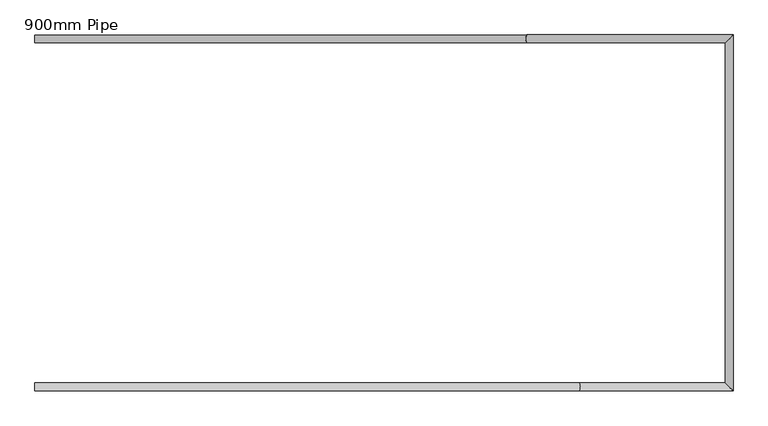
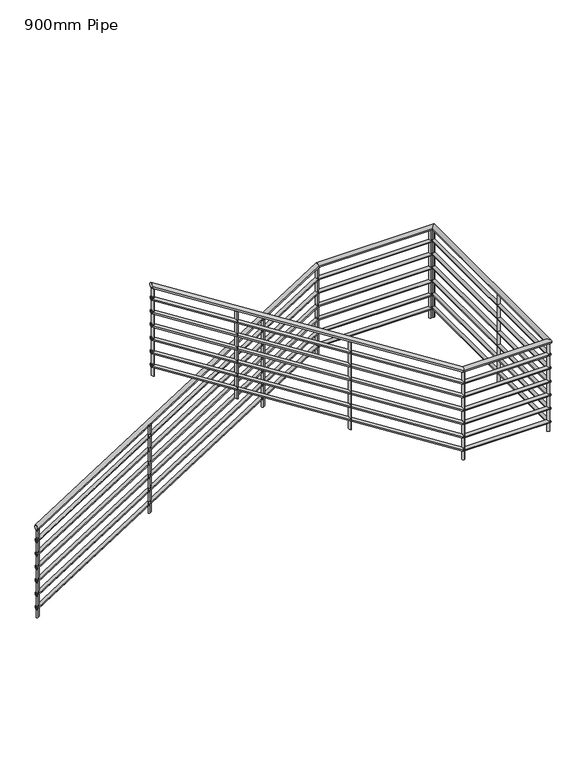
"""IFC4 building model written with IfcOpenShell, lengths in millimetres: railing geometry, 900mm Pipe."""

from ifc_helpers import new_model, si_unit, point, frame, frame_2d, origin, place, context, project, spatial, circle_curve, ellipse_curve, trimmed, segment, composite_curve, outline, extrude, source, transform, mapped, element, save
from ifc_brep_helpers import plane_surface, cylinder_surface, advanced_brep


def railing_900mm_pipe_eab54b94(model_context):
    return source(origin(), model_context, "Body", "SolidModel", [
        advanced_brep(
        [(9044.2181942, 164.5332903, 1051.2938094), (9044.2181942, 204.5332903, 1051.2938094), (11525.0422079, 204.5332903, 2630.0), (11525.0422079, 164.5332903, 2630.0), (12564.2181942, 204.5332903, 2630.0), (12524.2181942, 164.5332903, 2630.0), (12564.2181942, -1592.0090589, 2630.0), (12524.2181942, -1552.0090589, 2630.0), (11788.3941804, -1592.0090589, 2630.0), (11788.3941804, -1552.0090589, 2630.0), (9044.2181942, -1552.0090589, 4376.2938094), (9044.2181942, -1592.0090589, 4376.2938094)],
        [
            (0, 1, ellipse_curve(frame((9044.2181942, 184.5332903, 1051.2938094), z_axis=(-1.0, 0.0, 0.0), x_axis=(0.0, 0.0, -1.0)), 23.7061906, 20.0)),
            (1, 0, ellipse_curve(frame((9044.2181942, 184.5332903, 1051.2938094), z_axis=(-1.0, 0.0, 0.0), x_axis=(0.0, 0.0, -1.0)), 23.7061906, 20.0)),
            (1, 2),
            (2, 3, ellipse_curve(frame((11525.0422079, 184.5332903, 2630.0), z_axis=(-0.9601201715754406, 0.0, -0.27958765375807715), x_axis=(0.2795876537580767, 0.0, -0.9601201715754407)), 20.8307258, 20.0)),
            (3, 0),
            (3, 2, ellipse_curve(frame((11525.0422079, 184.5332903, 2630.0), z_axis=(-0.9601201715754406, 0.0, -0.27958765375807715), x_axis=(0.2795876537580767, 0.0, -0.9601201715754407)), 20.8307258, 20.0)),
            (2, 4),
            (4, 5, ellipse_curve(frame((12544.2181942, 184.5332903, 2630.0), z_axis=(-0.7071067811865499, 0.707106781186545, 0.0), x_axis=(-0.7071067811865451, -0.7071067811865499, 0.0)), 28.2842712, 20.0)),
            (5, 3),
            (5, 4, ellipse_curve(frame((12544.2181942, 184.5332903, 2630.0), z_axis=(-0.7071067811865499, 0.707106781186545, 0.0), x_axis=(-0.7071067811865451, -0.7071067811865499, 0.0)), 28.2842712, 20.0)),
            (4, 6),
            (6, 7, ellipse_curve(frame((12544.2181942, -1572.0090589, 2630.0), z_axis=(0.7071067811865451, 0.7071067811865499, 0.0), x_axis=(-0.70710678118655, 0.7071067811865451, 0.0)), 28.2842712, 20.0)),
            (7, 5),
            (7, 6, ellipse_curve(frame((12544.2181942, -1572.0090589, 2630.0), z_axis=(0.7071067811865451, 0.7071067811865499, 0.0), x_axis=(-0.70710678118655, 0.7071067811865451, 0.0)), 28.2842712, 20.0)),
            (6, 8),
            (8, 9, ellipse_curve(frame((11788.3941804, -1572.0090589, 2630.0), z_axis=(0.9601201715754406, 0.0, -0.2795876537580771), x_axis=(0.2795876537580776, 0.0, 0.9601201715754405)), 20.8307258, 20.0)),
            (9, 7),
            (9, 8, ellipse_curve(frame((11788.3941804, -1572.0090589, 2630.0), z_axis=(0.9601201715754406, 0.0, -0.2795876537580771), x_axis=(0.2795876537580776, 0.0, 0.9601201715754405)), 20.8307258, 20.0)),
            (10, 11, ellipse_curve(frame((9044.2181942, -1572.0090589, 4376.2938094), z_axis=(-1.0, 0.0, 0.0), x_axis=(0.0, 0.0, -1.0)), 23.7061906, 20.0)),
            (11, 10, ellipse_curve(frame((9044.2181942, -1572.0090589, 4376.2938094), z_axis=(-1.0, 0.0, 0.0), x_axis=(0.0, 0.0, -1.0)), 23.7061906, 20.0)),
            (8, 11),
            (10, 9),
        ],
        [
            plane_surface(frame((9044.2181942, 184.5332903, 1075.0), z_axis=(-1.0, 0.0, 0.0), x_axis=(0.0, 1.0, 0.0))),
            cylinder_surface(frame((9054.955704, 184.5332903, 1058.1267702), z_axis=(-0.8436614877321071, 0.0, -0.5368754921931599), x_axis=(0.0, 1.0, 0.0)), 20.0),
            cylinder_surface(frame((11519.2181942, 184.5332903, 2630.0), z_axis=(-1.0, 0.0, 0.0), x_axis=(0.0, 1.0, 0.0)), 20.0),
            cylinder_surface(frame((12544.2181942, 184.5332903, 2630.0), z_axis=(0.0, 1.0, 0.0), x_axis=(1.0, 0.0, 0.0)), 20.0),
            cylinder_surface(frame((12544.2181942, -1572.0090589, 2630.0), z_axis=(1.0, 0.0, 0.0), x_axis=(0.0, -1.0, 0.0)), 20.0),
            plane_surface(frame((9044.2181942, -1572.0090589, 4400.0), z_axis=(-1.0, 0.0, 0.0), x_axis=(0.0, -1.0, 0.0))),
            cylinder_surface(frame((11783.4806843, -1572.0090589, 2633.1267702), z_axis=(0.8436614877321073, 0.0, -0.5368754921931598), x_axis=(0.0, -1.0, 0.0)), 20.0),
        ],
        [
            (0, [[1, 2]]),
            (1, [[-2, 3, 4, 5]]),
            (1, [[-1, -5, 6, -3]]),
            (2, [[-4, 7, 8, 9]]),
            (2, [[-6, -9, 10, -7]]),
            (3, [[-8, 11, 12, 13]]),
            (3, [[-10, -13, 14, -11]]),
            (4, [[-12, 15, 16, 17]]),
            (4, [[-14, -17, 18, -15]]),
            (5, [[19, 20]]),
            (6, [[-16, 21, -19, 22]]),
            (6, [[-18, -22, -20, -21]]),
        ],
    ),
        advanced_brep(
        [(9044.2181942, 169.5332903, 932.2203571), (9044.2181942, 199.5332903, 932.2203571), (11523.5862045, 199.5332903, 2510.0), (11523.5862045, 169.5332903, 2510.0), (12559.2181942, 199.5332903, 2510.0), (12529.2181942, 169.5332903, 2510.0), (12559.2181942, -1587.0090589, 2510.0), (12529.2181942, -1557.0090589, 2510.0), (11789.8501838, -1587.0090589, 2510.0), (11789.8501838, -1557.0090589, 2510.0), (9044.2181942, -1557.0090589, 4257.2203571), (9044.2181942, -1587.0090589, 4257.2203571)],
        [
            (0, 1, ellipse_curve(frame((9044.2181942, 184.5332903, 932.2203571), z_axis=(-1.0, 0.0, 0.0), x_axis=(0.0, 0.0, -1.0)), 17.7796429, 15.0)),
            (1, 0, ellipse_curve(frame((9044.2181942, 184.5332903, 932.2203571), z_axis=(-1.0, 0.0, 0.0), x_axis=(0.0, 0.0, -1.0)), 17.7796429, 15.0)),
            (1, 2),
            (2, 3, ellipse_curve(frame((11523.5862045, 184.5332903, 2510.0), z_axis=(-0.9601201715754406, 0.0, -0.27958765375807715), x_axis=(0.2795876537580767, 0.0, -0.9601201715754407)), 15.6230443, 15.0)),
            (3, 0),
            (3, 2, ellipse_curve(frame((11523.5862045, 184.5332903, 2510.0), z_axis=(-0.9601201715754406, 0.0, -0.27958765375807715), x_axis=(0.2795876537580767, 0.0, -0.9601201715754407)), 15.6230443, 15.0)),
            (2, 4),
            (4, 5, ellipse_curve(frame((12544.2181942, 184.5332903, 2510.0), z_axis=(-0.7071067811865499, 0.707106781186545, 0.0), x_axis=(-0.7071067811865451, -0.7071067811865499, 0.0)), 21.2132034, 15.0)),
            (5, 3),
            (5, 4, ellipse_curve(frame((12544.2181942, 184.5332903, 2510.0), z_axis=(-0.7071067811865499, 0.707106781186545, 0.0), x_axis=(-0.7071067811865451, -0.7071067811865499, 0.0)), 21.2132034, 15.0)),
            (4, 6),
            (6, 7, ellipse_curve(frame((12544.2181942, -1572.0090589, 2510.0), z_axis=(0.7071067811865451, 0.7071067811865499, 0.0), x_axis=(-0.70710678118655, 0.7071067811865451, 0.0)), 21.2132034, 15.0)),
            (7, 5),
            (7, 6, ellipse_curve(frame((12544.2181942, -1572.0090589, 2510.0), z_axis=(0.7071067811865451, 0.7071067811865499, 0.0), x_axis=(-0.70710678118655, 0.7071067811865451, 0.0)), 21.2132034, 15.0)),
            (6, 8),
            (8, 9, ellipse_curve(frame((11789.8501838, -1572.0090589, 2510.0), z_axis=(0.9601201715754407, 0.0, -0.279587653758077), x_axis=(0.2795876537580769, 0.0, 0.9601201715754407)), 15.6230443, 15.0)),
            (9, 7),
            (9, 8, ellipse_curve(frame((11789.8501838, -1572.0090589, 2510.0), z_axis=(0.9601201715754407, 0.0, -0.279587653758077), x_axis=(0.2795876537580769, 0.0, 0.9601201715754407)), 15.6230443, 15.0)),
            (10, 11, ellipse_curve(frame((9044.2181942, -1572.0090589, 4257.2203571), z_axis=(-1.0, 0.0, 0.0), x_axis=(0.0, 0.0, -1.0)), 17.7796429, 15.0)),
            (11, 10, ellipse_curve(frame((9044.2181942, -1572.0090589, 4257.2203571), z_axis=(-1.0, 0.0, 0.0), x_axis=(0.0, 0.0, -1.0)), 17.7796429, 15.0)),
            (8, 11),
            (10, 9),
        ],
        [
            plane_surface(frame((9044.2181942, 184.5332903, 950.0), z_axis=(-1.0, 0.0, 0.0), x_axis=(0.0, 1.0, 0.0))),
            cylinder_surface(frame((9052.2713265, 184.5332903, 937.3450777), z_axis=(-0.8436614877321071, 0.0, -0.5368754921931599), x_axis=(0.0, 1.0, 0.0)), 15.0),
            cylinder_surface(frame((11519.2181942, 184.5332903, 2510.0), z_axis=(-1.0, 0.0, 0.0), x_axis=(0.0, 1.0, 0.0)), 15.0),
            cylinder_surface(frame((12544.2181942, 184.5332903, 2510.0), z_axis=(0.0, 1.0, 0.0), x_axis=(1.0, 0.0, 0.0)), 15.0),
            cylinder_surface(frame((12544.2181942, -1572.0090589, 2510.0), z_axis=(1.0, 0.0, 0.0), x_axis=(0.0, -1.0, 0.0)), 15.0),
            plane_surface(frame((9044.2181942, -1572.0090589, 4275.0), z_axis=(-1.0, 0.0, 0.0), x_axis=(0.0, -1.0, 0.0))),
            cylinder_surface(frame((11786.1650618, -1572.0090589, 2512.3450777), z_axis=(0.8436614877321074, 0.0, -0.5368754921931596), x_axis=(0.0, -1.0, 0.0)), 15.0),
        ],
        [
            (0, [[1, 2]]),
            (1, [[-2, 3, 4, 5]]),
            (1, [[-1, -5, 6, -3]]),
            (2, [[-4, 7, 8, 9]]),
            (2, [[-6, -9, 10, -7]]),
            (3, [[-8, 11, 12, 13]]),
            (3, [[-10, -13, 14, -11]]),
            (4, [[-12, 15, 16, 17]]),
            (4, [[-14, -17, 18, -15]]),
            (5, [[19, 20]]),
            (6, [[-16, 21, -19, 22]]),
            (6, [[-18, -22, -20, -21]]),
        ],
    ),
        advanced_brep(
        [(9044.2181942, 169.5332903, 807.2203571), (9044.2181942, 199.5332903, 807.2203571), (11523.5862045, 199.5332903, 2385.0), (11523.5862045, 169.5332903, 2385.0), (12559.2181942, 199.5332903, 2385.0), (12529.2181942, 169.5332903, 2385.0), (12559.2181942, -1587.0090589, 2385.0), (12529.2181942, -1557.0090589, 2385.0), (11789.8501838, -1587.0090589, 2385.0), (11789.8501838, -1557.0090589, 2385.0), (9044.2181942, -1557.0090589, 4132.2203571), (9044.2181942, -1587.0090589, 4132.2203571)],
        [
            (0, 1, ellipse_curve(frame((9044.2181942, 184.5332903, 807.2203571), z_axis=(-1.0, 0.0, 0.0), x_axis=(0.0, 0.0, -1.0)), 17.7796429, 15.0)),
            (1, 0, ellipse_curve(frame((9044.2181942, 184.5332903, 807.2203571), z_axis=(-1.0, 0.0, 0.0), x_axis=(0.0, 0.0, -1.0)), 17.7796429, 15.0)),
            (1, 2),
            (2, 3, ellipse_curve(frame((11523.5862045, 184.5332903, 2385.0), z_axis=(-0.9601201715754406, 0.0, -0.27958765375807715), x_axis=(0.2795876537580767, 0.0, -0.9601201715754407)), 15.6230443, 15.0)),
            (3, 0),
            (3, 2, ellipse_curve(frame((11523.5862045, 184.5332903, 2385.0), z_axis=(-0.9601201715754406, 0.0, -0.27958765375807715), x_axis=(0.2795876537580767, 0.0, -0.9601201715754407)), 15.6230443, 15.0)),
            (2, 4),
            (4, 5, ellipse_curve(frame((12544.2181942, 184.5332903, 2385.0), z_axis=(-0.7071067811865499, 0.707106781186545, 0.0), x_axis=(-0.7071067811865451, -0.7071067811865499, 0.0)), 21.2132034, 15.0)),
            (5, 3),
            (5, 4, ellipse_curve(frame((12544.2181942, 184.5332903, 2385.0), z_axis=(-0.7071067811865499, 0.707106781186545, 0.0), x_axis=(-0.7071067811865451, -0.7071067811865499, 0.0)), 21.2132034, 15.0)),
            (4, 6),
            (6, 7, ellipse_curve(frame((12544.2181942, -1572.0090589, 2385.0), z_axis=(0.7071067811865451, 0.7071067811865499, 0.0), x_axis=(-0.70710678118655, 0.7071067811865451, 0.0)), 21.2132034, 15.0)),
            (7, 5),
            (7, 6, ellipse_curve(frame((12544.2181942, -1572.0090589, 2385.0), z_axis=(0.7071067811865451, 0.7071067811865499, 0.0), x_axis=(-0.70710678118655, 0.7071067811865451, 0.0)), 21.2132034, 15.0)),
            (6, 8),
            (8, 9, ellipse_curve(frame((11789.8501838, -1572.0090589, 2385.0), z_axis=(0.9601201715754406, 0.0, -0.27958765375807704), x_axis=(0.2795876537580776, 0.0, 0.9601201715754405)), 15.6230443, 15.0)),
            (9, 7),
            (9, 8, ellipse_curve(frame((11789.8501838, -1572.0090589, 2385.0), z_axis=(0.9601201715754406, 0.0, -0.27958765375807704), x_axis=(0.2795876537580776, 0.0, 0.9601201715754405)), 15.6230443, 15.0)),
            (10, 11, ellipse_curve(frame((9044.2181942, -1572.0090589, 4132.2203571), z_axis=(-1.0, 0.0, 0.0), x_axis=(0.0, 0.0, -1.0)), 17.7796429, 15.0)),
            (11, 10, ellipse_curve(frame((9044.2181942, -1572.0090589, 4132.2203571), z_axis=(-1.0, 0.0, 0.0), x_axis=(0.0, 0.0, -1.0)), 17.7796429, 15.0)),
            (8, 11),
            (10, 9),
        ],
        [
            plane_surface(frame((9044.2181942, 184.5332903, 825.0), z_axis=(-1.0, 0.0, 0.0), x_axis=(0.0, 1.0, 0.0))),
            cylinder_surface(frame((9052.2713265, 184.5332903, 812.3450777), z_axis=(-0.8436614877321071, 0.0, -0.5368754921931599), x_axis=(0.0, 1.0, 0.0)), 15.0),
            cylinder_surface(frame((11519.2181942, 184.5332903, 2385.0), z_axis=(-1.0, 0.0, 0.0), x_axis=(0.0, 1.0, 0.0)), 15.0),
            cylinder_surface(frame((12544.2181942, 184.5332903, 2385.0), z_axis=(0.0, 1.0, 0.0), x_axis=(1.0, 0.0, 0.0)), 15.0),
            cylinder_surface(frame((12544.2181942, -1572.0090589, 2385.0), z_axis=(1.0, 0.0, 0.0), x_axis=(0.0, -1.0, 0.0)), 15.0),
            plane_surface(frame((9044.2181942, -1572.0090589, 4150.0), z_axis=(-1.0, 0.0, 0.0), x_axis=(0.0, -1.0, 0.0))),
            cylinder_surface(frame((11786.1650618, -1572.0090589, 2387.3450777), z_axis=(0.8436614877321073, 0.0, -0.5368754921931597), x_axis=(0.0, -1.0, 0.0)), 15.0),
        ],
        [
            (0, [[1, 2]]),
            (1, [[-2, 3, 4, 5]]),
            (1, [[-1, -5, 6, -3]]),
            (2, [[-4, 7, 8, 9]]),
            (2, [[-6, -9, 10, -7]]),
            (3, [[-8, 11, 12, 13]]),
            (3, [[-10, -13, 14, -11]]),
            (4, [[-12, 15, 16, 17]]),
            (4, [[-14, -17, 18, -15]]),
            (5, [[19, 20]]),
            (6, [[-16, 21, -19, 22]]),
            (6, [[-18, -22, -20, -21]]),
        ],
    ),
        advanced_brep(
        [(9044.2181942, 169.5332903, 682.2203571), (9044.2181942, 199.5332903, 682.2203571), (11523.5862045, 199.5332903, 2260.0), (11523.5862045, 169.5332903, 2260.0), (12559.2181942, 199.5332903, 2260.0), (12529.2181942, 169.5332903, 2260.0), (12559.2181942, -1587.0090589, 2260.0), (12529.2181942, -1557.0090589, 2260.0), (11789.8501838, -1587.0090589, 2260.0), (11789.8501838, -1557.0090589, 2260.0), (9044.2181942, -1557.0090589, 4007.2203571), (9044.2181942, -1587.0090589, 4007.2203571)],
        [
            (0, 1, ellipse_curve(frame((9044.2181942, 184.5332903, 682.2203571), z_axis=(-1.0, 0.0, 0.0), x_axis=(0.0, 0.0, -1.0)), 17.7796429, 15.0)),
            (1, 0, ellipse_curve(frame((9044.2181942, 184.5332903, 682.2203571), z_axis=(-1.0, 0.0, 0.0), x_axis=(0.0, 0.0, -1.0)), 17.7796429, 15.0)),
            (1, 2),
            (2, 3, ellipse_curve(frame((11523.5862045, 184.5332903, 2260.0), z_axis=(-0.9601201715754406, 0.0, -0.27958765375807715), x_axis=(0.2795876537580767, 0.0, -0.9601201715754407)), 15.6230443, 15.0)),
            (3, 0),
            (3, 2, ellipse_curve(frame((11523.5862045, 184.5332903, 2260.0), z_axis=(-0.9601201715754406, 0.0, -0.27958765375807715), x_axis=(0.2795876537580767, 0.0, -0.9601201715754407)), 15.6230443, 15.0)),
            (2, 4),
            (4, 5, ellipse_curve(frame((12544.2181942, 184.5332903, 2260.0), z_axis=(-0.7071067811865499, 0.707106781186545, 0.0), x_axis=(-0.7071067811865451, -0.7071067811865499, 0.0)), 21.2132034, 15.0)),
            (5, 3),
            (5, 4, ellipse_curve(frame((12544.2181942, 184.5332903, 2260.0), z_axis=(-0.7071067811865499, 0.707106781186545, 0.0), x_axis=(-0.7071067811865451, -0.7071067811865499, 0.0)), 21.2132034, 15.0)),
            (4, 6),
            (6, 7, ellipse_curve(frame((12544.2181942, -1572.0090589, 2260.0), z_axis=(0.7071067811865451, 0.7071067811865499, 0.0), x_axis=(-0.70710678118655, 0.7071067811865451, 0.0)), 21.2132034, 15.0)),
            (7, 5),
            (7, 6, ellipse_curve(frame((12544.2181942, -1572.0090589, 2260.0), z_axis=(0.7071067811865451, 0.7071067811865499, 0.0), x_axis=(-0.70710678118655, 0.7071067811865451, 0.0)), 21.2132034, 15.0)),
            (6, 8),
            (8, 9, ellipse_curve(frame((11789.8501838, -1572.0090589, 2260.0), z_axis=(0.9601201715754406, 0.0, -0.2795876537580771), x_axis=(0.2795876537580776, 0.0, 0.9601201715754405)), 15.6230443, 15.0)),
            (9, 7),
            (9, 8, ellipse_curve(frame((11789.8501838, -1572.0090589, 2260.0), z_axis=(0.9601201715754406, 0.0, -0.2795876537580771), x_axis=(0.2795876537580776, 0.0, 0.9601201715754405)), 15.6230443, 15.0)),
            (10, 11, ellipse_curve(frame((9044.2181942, -1572.0090589, 4007.2203571), z_axis=(-1.0, 0.0, 0.0), x_axis=(0.0, 0.0, -1.0)), 17.7796429, 15.0)),
            (11, 10, ellipse_curve(frame((9044.2181942, -1572.0090589, 4007.2203571), z_axis=(-1.0, 0.0, 0.0), x_axis=(0.0, 0.0, -1.0)), 17.7796429, 15.0)),
            (8, 11),
            (10, 9),
        ],
        [
            plane_surface(frame((9044.2181942, 184.5332903, 700.0), z_axis=(-1.0, 0.0, 0.0), x_axis=(0.0, 1.0, 0.0))),
            cylinder_surface(frame((9052.2713265, 184.5332903, 687.3450777), z_axis=(-0.8436614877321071, 0.0, -0.5368754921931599), x_axis=(0.0, 1.0, 0.0)), 15.0),
            cylinder_surface(frame((11519.2181942, 184.5332903, 2260.0), z_axis=(-1.0, 0.0, 0.0), x_axis=(0.0, 1.0, 0.0)), 15.0),
            cylinder_surface(frame((12544.2181942, 184.5332903, 2260.0), z_axis=(0.0, 1.0, 0.0), x_axis=(1.0, 0.0, 0.0)), 15.0),
            cylinder_surface(frame((12544.2181942, -1572.0090589, 2260.0), z_axis=(1.0, 0.0, 0.0), x_axis=(0.0, -1.0, 0.0)), 15.0),
            plane_surface(frame((9044.2181942, -1572.0090589, 4025.0), z_axis=(-1.0, 0.0, 0.0), x_axis=(0.0, -1.0, 0.0))),
            cylinder_surface(frame((11786.1650618, -1572.0090589, 2262.3450777), z_axis=(0.8436614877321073, 0.0, -0.5368754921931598), x_axis=(0.0, -1.0, 0.0)), 15.0),
        ],
        [
            (0, [[1, 2]]),
            (1, [[-2, 3, 4, 5]]),
            (1, [[-1, -5, 6, -3]]),
            (2, [[-4, 7, 8, 9]]),
            (2, [[-6, -9, 10, -7]]),
            (3, [[-8, 11, 12, 13]]),
            (3, [[-10, -13, 14, -11]]),
            (4, [[-12, 15, 16, 17]]),
            (4, [[-14, -17, 18, -15]]),
            (5, [[19, 20]]),
            (6, [[-16, 21, -19, 22]]),
            (6, [[-18, -22, -20, -21]]),
        ],
    ),
        advanced_brep(
        [(9044.2181942, 169.5332903, 557.2203571), (9044.2181942, 199.5332903, 557.2203571), (11523.5862045, 199.5332903, 2135.0), (11523.5862045, 169.5332903, 2135.0), (12559.2181942, 199.5332903, 2135.0), (12529.2181942, 169.5332903, 2135.0), (12559.2181942, -1587.0090589, 2135.0), (12529.2181942, -1557.0090589, 2135.0), (11789.8501838, -1587.0090589, 2135.0), (11789.8501838, -1557.0090589, 2135.0), (9044.2181942, -1557.0090589, 3882.2203571), (9044.2181942, -1587.0090589, 3882.2203571)],
        [
            (0, 1, ellipse_curve(frame((9044.2181942, 184.5332903, 557.2203571), z_axis=(-1.0, 0.0, 0.0), x_axis=(0.0, 0.0, -1.0)), 17.7796429, 15.0)),
            (1, 0, ellipse_curve(frame((9044.2181942, 184.5332903, 557.2203571), z_axis=(-1.0, 0.0, 0.0), x_axis=(0.0, 0.0, -1.0)), 17.7796429, 15.0)),
            (1, 2),
            (2, 3, ellipse_curve(frame((11523.5862045, 184.5332903, 2135.0), z_axis=(-0.9601201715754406, 0.0, -0.27958765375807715), x_axis=(0.2795876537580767, 0.0, -0.9601201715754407)), 15.6230443, 15.0)),
            (3, 0),
            (3, 2, ellipse_curve(frame((11523.5862045, 184.5332903, 2135.0), z_axis=(-0.9601201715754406, 0.0, -0.27958765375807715), x_axis=(0.2795876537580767, 0.0, -0.9601201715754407)), 15.6230443, 15.0)),
            (2, 4),
            (4, 5, ellipse_curve(frame((12544.2181942, 184.5332903, 2135.0), z_axis=(-0.7071067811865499, 0.707106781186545, 0.0), x_axis=(-0.7071067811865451, -0.7071067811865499, 0.0)), 21.2132034, 15.0)),
            (5, 3),
            (5, 4, ellipse_curve(frame((12544.2181942, 184.5332903, 2135.0), z_axis=(-0.7071067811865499, 0.707106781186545, 0.0), x_axis=(-0.7071067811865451, -0.7071067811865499, 0.0)), 21.2132034, 15.0)),
            (4, 6),
            (6, 7, ellipse_curve(frame((12544.2181942, -1572.0090589, 2135.0), z_axis=(0.7071067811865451, 0.7071067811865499, 0.0), x_axis=(-0.70710678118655, 0.7071067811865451, 0.0)), 21.2132034, 15.0)),
            (7, 5),
            (7, 6, ellipse_curve(frame((12544.2181942, -1572.0090589, 2135.0), z_axis=(0.7071067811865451, 0.7071067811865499, 0.0), x_axis=(-0.70710678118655, 0.7071067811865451, 0.0)), 21.2132034, 15.0)),
            (6, 8),
            (8, 9, ellipse_curve(frame((11789.8501838, -1572.0090589, 2135.0), z_axis=(0.9601201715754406, 0.0, -0.27958765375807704), x_axis=(0.2795876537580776, 0.0, 0.9601201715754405)), 15.6230443, 15.0)),
            (9, 7),
            (9, 8, ellipse_curve(frame((11789.8501838, -1572.0090589, 2135.0), z_axis=(0.9601201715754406, 0.0, -0.27958765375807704), x_axis=(0.2795876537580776, 0.0, 0.9601201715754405)), 15.6230443, 15.0)),
            (10, 11, ellipse_curve(frame((9044.2181942, -1572.0090589, 3882.2203571), z_axis=(-1.0, 0.0, 0.0), x_axis=(0.0, 0.0, -1.0)), 17.7796429, 15.0)),
            (11, 10, ellipse_curve(frame((9044.2181942, -1572.0090589, 3882.2203571), z_axis=(-1.0, 0.0, 0.0), x_axis=(0.0, 0.0, -1.0)), 17.7796429, 15.0)),
            (8, 11),
            (10, 9),
        ],
        [
            plane_surface(frame((9044.2181942, 184.5332903, 575.0), z_axis=(-1.0, 0.0, 0.0), x_axis=(0.0, 1.0, 0.0))),
            cylinder_surface(frame((9052.2713265, 184.5332903, 562.3450777), z_axis=(-0.8436614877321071, 0.0, -0.5368754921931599), x_axis=(0.0, 1.0, 0.0)), 15.0),
            cylinder_surface(frame((11519.2181942, 184.5332903, 2135.0), z_axis=(-1.0, 0.0, 0.0), x_axis=(0.0, 1.0, 0.0)), 15.0),
            cylinder_surface(frame((12544.2181942, 184.5332903, 2135.0), z_axis=(0.0, 1.0, 0.0), x_axis=(1.0, 0.0, 0.0)), 15.0),
            cylinder_surface(frame((12544.2181942, -1572.0090589, 2135.0), z_axis=(1.0, 0.0, 0.0), x_axis=(0.0, -1.0, 0.0)), 15.0),
            plane_surface(frame((9044.2181942, -1572.0090589, 3900.0), z_axis=(-1.0, 0.0, 0.0), x_axis=(0.0, -1.0, 0.0))),
            cylinder_surface(frame((11786.1650618, -1572.0090589, 2137.3450777), z_axis=(0.8436614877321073, 0.0, -0.5368754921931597), x_axis=(0.0, -1.0, 0.0)), 15.0),
        ],
        [
            (0, [[1, 2]]),
            (1, [[-2, 3, 4, 5]]),
            (1, [[-1, -5, 6, -3]]),
            (2, [[-4, 7, 8, 9]]),
            (2, [[-6, -9, 10, -7]]),
            (3, [[-8, 11, 12, 13]]),
            (3, [[-10, -13, 14, -11]]),
            (4, [[-12, 15, 16, 17]]),
            (4, [[-14, -17, 18, -15]]),
            (5, [[19, 20]]),
            (6, [[-16, 21, -19, 22]]),
            (6, [[-18, -22, -20, -21]]),
        ],
    ),
        advanced_brep(
        [(9044.2181942, 169.5332903, 432.2203571), (9044.2181942, 199.5332903, 432.2203571), (11523.5862045, 199.5332903, 2010.0), (11523.5862045, 169.5332903, 2010.0), (12559.2181942, 199.5332903, 2010.0), (12529.2181942, 169.5332903, 2010.0), (12559.2181942, -1587.0090589, 2010.0), (12529.2181942, -1557.0090589, 2010.0), (11789.8501838, -1587.0090589, 2010.0), (11789.8501838, -1557.0090589, 2010.0), (9044.2181942, -1557.0090589, 3757.2203571), (9044.2181942, -1587.0090589, 3757.2203571)],
        [
            (0, 1, ellipse_curve(frame((9044.2181942, 184.5332903, 432.2203571), z_axis=(-1.0, 0.0, 0.0), x_axis=(0.0, 0.0, -1.0)), 17.7796429, 15.0)),
            (1, 0, ellipse_curve(frame((9044.2181942, 184.5332903, 432.2203571), z_axis=(-1.0, 0.0, 0.0), x_axis=(0.0, 0.0, -1.0)), 17.7796429, 15.0)),
            (1, 2),
            (2, 3, ellipse_curve(frame((11523.5862045, 184.5332903, 2010.0), z_axis=(-0.9601201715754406, 0.0, -0.27958765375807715), x_axis=(0.2795876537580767, 0.0, -0.9601201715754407)), 15.6230443, 15.0)),
            (3, 0),
            (3, 2, ellipse_curve(frame((11523.5862045, 184.5332903, 2010.0), z_axis=(-0.9601201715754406, 0.0, -0.27958765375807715), x_axis=(0.2795876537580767, 0.0, -0.9601201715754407)), 15.6230443, 15.0)),
            (2, 4),
            (4, 5, ellipse_curve(frame((12544.2181942, 184.5332903, 2010.0), z_axis=(-0.7071067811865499, 0.707106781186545, 0.0), x_axis=(-0.7071067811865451, -0.7071067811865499, 0.0)), 21.2132034, 15.0)),
            (5, 3),
            (5, 4, ellipse_curve(frame((12544.2181942, 184.5332903, 2010.0), z_axis=(-0.7071067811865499, 0.707106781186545, 0.0), x_axis=(-0.7071067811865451, -0.7071067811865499, 0.0)), 21.2132034, 15.0)),
            (4, 6),
            (6, 7, ellipse_curve(frame((12544.2181942, -1572.0090589, 2010.0), z_axis=(0.7071067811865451, 0.7071067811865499, 0.0), x_axis=(-0.70710678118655, 0.7071067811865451, 0.0)), 21.2132034, 15.0)),
            (7, 5),
            (7, 6, ellipse_curve(frame((12544.2181942, -1572.0090589, 2010.0), z_axis=(0.7071067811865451, 0.7071067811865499, 0.0), x_axis=(-0.70710678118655, 0.7071067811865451, 0.0)), 21.2132034, 15.0)),
            (6, 8),
            (8, 9, ellipse_curve(frame((11789.8501838, -1572.0090589, 2010.0), z_axis=(0.9601201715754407, 0.0, -0.279587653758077), x_axis=(0.2795876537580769, 0.0, 0.9601201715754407)), 15.6230443, 15.0)),
            (9, 7),
            (9, 8, ellipse_curve(frame((11789.8501838, -1572.0090589, 2010.0), z_axis=(0.9601201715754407, 0.0, -0.279587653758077), x_axis=(0.2795876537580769, 0.0, 0.9601201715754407)), 15.6230443, 15.0)),
            (10, 11, ellipse_curve(frame((9044.2181942, -1572.0090589, 3757.2203571), z_axis=(-1.0, 0.0, 0.0), x_axis=(0.0, 0.0, -1.0)), 17.7796429, 15.0)),
            (11, 10, ellipse_curve(frame((9044.2181942, -1572.0090589, 3757.2203571), z_axis=(-1.0, 0.0, 0.0), x_axis=(0.0, 0.0, -1.0)), 17.7796429, 15.0)),
            (8, 11),
            (10, 9),
        ],
        [
            plane_surface(frame((9044.2181942, 184.5332903, 450.0), z_axis=(-1.0, 0.0, 0.0), x_axis=(0.0, 1.0, 0.0))),
            cylinder_surface(frame((9052.2713265, 184.5332903, 437.3450777), z_axis=(-0.8436614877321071, 0.0, -0.5368754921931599), x_axis=(0.0, 1.0, 0.0)), 15.0),
            cylinder_surface(frame((11519.2181942, 184.5332903, 2010.0), z_axis=(-1.0, 0.0, 0.0), x_axis=(0.0, 1.0, 0.0)), 15.0),
            cylinder_surface(frame((12544.2181942, 184.5332903, 2010.0), z_axis=(0.0, 1.0, 0.0), x_axis=(1.0, 0.0, 0.0)), 15.0),
            cylinder_surface(frame((12544.2181942, -1572.0090589, 2010.0), z_axis=(1.0, 0.0, 0.0), x_axis=(0.0, -1.0, 0.0)), 15.0),
            plane_surface(frame((9044.2181942, -1572.0090589, 3775.0), z_axis=(-1.0, 0.0, 0.0), x_axis=(0.0, -1.0, 0.0))),
            cylinder_surface(frame((11786.1650618, -1572.0090589, 2012.3450777), z_axis=(0.8436614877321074, 0.0, -0.5368754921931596), x_axis=(0.0, -1.0, 0.0)), 15.0),
        ],
        [
            (0, [[1, 2]]),
            (1, [[-2, 3, 4, 5]]),
            (1, [[-1, -5, 6, -3]]),
            (2, [[-4, 7, 8, 9]]),
            (2, [[-6, -9, 10, -7]]),
            (3, [[-8, 11, 12, 13]]),
            (3, [[-10, -13, 14, -11]]),
            (4, [[-12, 15, 16, 17]]),
            (4, [[-14, -17, 18, -15]]),
            (5, [[19, 20]]),
            (6, [[-16, 21, -19, 22]]),
            (6, [[-18, -22, -20, -21]]),
        ],
    ),
        advanced_brep(
        [(9044.2181942, 169.5332903, 307.2203571), (9044.2181942, 199.5332903, 307.2203571), (11523.5862045, 199.5332903, 1885.0), (11523.5862045, 169.5332903, 1885.0), (12559.2181942, 199.5332903, 1885.0), (12529.2181942, 169.5332903, 1885.0), (12559.2181942, -1587.0090589, 1885.0), (12529.2181942, -1557.0090589, 1885.0), (11789.8501838, -1587.0090589, 1885.0), (11789.8501838, -1557.0090589, 1885.0), (9044.2181942, -1557.0090589, 3632.2203571), (9044.2181942, -1587.0090589, 3632.2203571)],
        [
            (0, 1, ellipse_curve(frame((9044.2181942, 184.5332903, 307.2203571), z_axis=(-1.0, 0.0, 0.0), x_axis=(0.0, 0.0, -1.0)), 17.7796429, 15.0)),
            (1, 0, ellipse_curve(frame((9044.2181942, 184.5332903, 307.2203571), z_axis=(-1.0, 0.0, 0.0), x_axis=(0.0, 0.0, -1.0)), 17.7796429, 15.0)),
            (1, 2),
            (2, 3, ellipse_curve(frame((11523.5862045, 184.5332903, 1885.0), z_axis=(-0.9601201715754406, 0.0, -0.27958765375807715), x_axis=(0.2795876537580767, 0.0, -0.9601201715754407)), 15.6230443, 15.0)),
            (3, 0),
            (3, 2, ellipse_curve(frame((11523.5862045, 184.5332903, 1885.0), z_axis=(-0.9601201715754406, 0.0, -0.27958765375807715), x_axis=(0.2795876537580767, 0.0, -0.9601201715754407)), 15.6230443, 15.0)),
            (2, 4),
            (4, 5, ellipse_curve(frame((12544.2181942, 184.5332903, 1885.0), z_axis=(-0.7071067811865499, 0.707106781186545, 0.0), x_axis=(-0.7071067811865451, -0.7071067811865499, 0.0)), 21.2132034, 15.0)),
            (5, 3),
            (5, 4, ellipse_curve(frame((12544.2181942, 184.5332903, 1885.0), z_axis=(-0.7071067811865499, 0.707106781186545, 0.0), x_axis=(-0.7071067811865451, -0.7071067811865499, 0.0)), 21.2132034, 15.0)),
            (4, 6),
            (6, 7, ellipse_curve(frame((12544.2181942, -1572.0090589, 1885.0), z_axis=(0.7071067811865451, 0.7071067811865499, 0.0), x_axis=(-0.70710678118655, 0.7071067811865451, 0.0)), 21.2132034, 15.0)),
            (7, 5),
            (7, 6, ellipse_curve(frame((12544.2181942, -1572.0090589, 1885.0), z_axis=(0.7071067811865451, 0.7071067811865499, 0.0), x_axis=(-0.70710678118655, 0.7071067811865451, 0.0)), 21.2132034, 15.0)),
            (6, 8),
            (8, 9, ellipse_curve(frame((11789.8501838, -1572.0090589, 1885.0), z_axis=(0.9601201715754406, 0.0, -0.27958765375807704), x_axis=(0.2795876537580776, 0.0, 0.9601201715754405)), 15.6230443, 15.0)),
            (9, 7),
            (9, 8, ellipse_curve(frame((11789.8501838, -1572.0090589, 1885.0), z_axis=(0.9601201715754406, 0.0, -0.27958765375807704), x_axis=(0.2795876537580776, 0.0, 0.9601201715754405)), 15.6230443, 15.0)),
            (10, 11, ellipse_curve(frame((9044.2181942, -1572.0090589, 3632.2203571), z_axis=(-1.0, 0.0, 0.0), x_axis=(0.0, 0.0, -1.0)), 17.7796429, 15.0)),
            (11, 10, ellipse_curve(frame((9044.2181942, -1572.0090589, 3632.2203571), z_axis=(-1.0, 0.0, 0.0), x_axis=(0.0, 0.0, -1.0)), 17.7796429, 15.0)),
            (8, 11),
            (10, 9),
        ],
        [
            plane_surface(frame((9044.2181942, 184.5332903, 325.0), z_axis=(-1.0, 0.0, 0.0), x_axis=(0.0, 1.0, 0.0))),
            cylinder_surface(frame((9052.2713265, 184.5332903, 312.3450777), z_axis=(-0.8436614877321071, 0.0, -0.5368754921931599), x_axis=(0.0, 1.0, 0.0)), 15.0),
            cylinder_surface(frame((11519.2181942, 184.5332903, 1885.0), z_axis=(-1.0, 0.0, 0.0), x_axis=(0.0, 1.0, 0.0)), 15.0),
            cylinder_surface(frame((12544.2181942, 184.5332903, 1885.0), z_axis=(0.0, 1.0, 0.0), x_axis=(1.0, 0.0, 0.0)), 15.0),
            cylinder_surface(frame((12544.2181942, -1572.0090589, 1885.0), z_axis=(1.0, 0.0, 0.0), x_axis=(0.0, -1.0, 0.0)), 15.0),
            plane_surface(frame((9044.2181942, -1572.0090589, 3650.0), z_axis=(-1.0, 0.0, 0.0), x_axis=(0.0, -1.0, 0.0))),
            cylinder_surface(frame((11786.1650618, -1572.0090589, 1887.3450777), z_axis=(0.8436614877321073, 0.0, -0.5368754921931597), x_axis=(0.0, -1.0, 0.0)), 15.0),
        ],
        [
            (0, [[1, 2]]),
            (1, [[-2, 3, 4, 5]]),
            (1, [[-1, -5, 6, -3]]),
            (2, [[-4, 7, 8, 9]]),
            (2, [[-6, -9, 10, -7]]),
            (3, [[-8, 11, 12, 13]]),
            (3, [[-10, -13, 14, -11]]),
            (4, [[-12, 15, 16, 17]]),
            (4, [[-14, -17, 18, -15]]),
            (5, [[19, 20]]),
            (6, [[-16, 21, -19, 22]]),
            (6, [[-18, -22, -20, -21]]),
        ],
    ),
        advanced_brep(
        [(9794.2181942, -1584.5090589, 3875.3148916), (9794.2181942, -1559.5090589, 3875.3148916), (9794.2181942, -1559.5090589, 3063.1941859), (9794.2181942, -1584.5090589, 3063.1941859)],
        [
            (0, 1, ellipse_curve(frame((9794.2181942, -1572.0090589, 3875.3148916), z_axis=(-0.5368754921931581, 0.0, -0.8436614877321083), x_axis=(-0.8436614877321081, 0.0, 0.5368754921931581)), 14.8163691, 12.5)),
            (1, 2),
            (2, 3, ellipse_curve(frame((9794.2181942, -1572.0090589, 3063.1941859), z_axis=(0.5368754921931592, 0.0, 0.8436614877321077), x_axis=(-0.8436614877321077, 0.0, 0.5368754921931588)), 14.8163691, 12.5)),
            (3, 0),
            (3, 2, ellipse_curve(frame((9794.2181942, -1572.0090589, 3063.1941859), z_axis=(0.5368754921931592, 0.0, 0.8436614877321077), x_axis=(-0.8436614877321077, 0.0, 0.5368754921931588)), 14.8163691, 12.5)),
            (1, 0, ellipse_curve(frame((9794.2181942, -1572.0090589, 3875.3148916), z_axis=(-0.5368754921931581, 0.0, -0.8436614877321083), x_axis=(-0.8436614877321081, 0.0, 0.5368754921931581)), 14.8163691, 12.5)),
        ],
        [
            cylinder_surface(frame((9794.2181942, -1572.0090589, 2963.1941859), z_axis=(0.0, 0.0, 1.0), x_axis=(0.0, 1.0, 0.0)), 12.5),
            plane_surface(frame((9769.2181942, -1547.0090589, 3891.2239825), z_axis=(0.5368754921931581, 0.0, 0.8436614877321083), x_axis=(0.0, -1.0, 0.0))),
            plane_surface(frame((9819.2181942, -1547.0090589, 3047.285095), z_axis=(-0.5368754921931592, 0.0, -0.8436614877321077), x_axis=(0.0, -1.0, 0.0))),
        ],
        [
            (0, [[1, 2, 3, 4]]),
            (0, [[5, -2, 6, -4]]),
            (1, [[-6, -1]]),
            (2, [[-5, -3]]),
        ],
    ),
        advanced_brep(
        [(10794.2181942, -1584.5090589, 3238.9512552), (10794.2181942, -1559.5090589, 3238.9512552), (10794.2181942, -1559.5090589, 2426.8305496), (10794.2181942, -1584.5090589, 2426.8305496)],
        [
            (0, 1, ellipse_curve(frame((10794.2181942, -1572.0090589, 3238.9512552), z_axis=(-0.5368754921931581, 0.0, -0.8436614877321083), x_axis=(-0.8436614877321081, 0.0, 0.5368754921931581)), 14.8163691, 12.5)),
            (1, 2),
            (2, 3, ellipse_curve(frame((10794.2181942, -1572.0090589, 2426.8305496), z_axis=(0.5368754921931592, 0.0, 0.8436614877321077), x_axis=(-0.8436614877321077, 0.0, 0.5368754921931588)), 14.8163691, 12.5)),
            (3, 0),
            (3, 2, ellipse_curve(frame((10794.2181942, -1572.0090589, 2426.8305496), z_axis=(0.5368754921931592, 0.0, 0.8436614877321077), x_axis=(-0.8436614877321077, 0.0, 0.5368754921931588)), 14.8163691, 12.5)),
            (1, 0, ellipse_curve(frame((10794.2181942, -1572.0090589, 3238.9512552), z_axis=(-0.5368754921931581, 0.0, -0.8436614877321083), x_axis=(-0.8436614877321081, 0.0, 0.5368754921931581)), 14.8163691, 12.5)),
        ],
        [
            cylinder_surface(frame((10794.2181942, -1572.0090589, 2326.8305496), z_axis=(0.0, 0.0, 1.0), x_axis=(0.0, 1.0, 0.0)), 12.5),
            plane_surface(frame((10769.2181942, -1547.0090589, 3254.8603461), z_axis=(0.5368754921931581, 0.0, 0.8436614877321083), x_axis=(0.0, -1.0, 0.0))),
            plane_surface(frame((10819.2181942, -1547.0090589, 2410.9214587), z_axis=(-0.5368754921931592, 0.0, -0.8436614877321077), x_axis=(0.0, -1.0, 0.0))),
        ],
        [
            (0, [[1, 2, 3, 4]]),
            (0, [[5, -2, 6, -4]]),
            (1, [[-6, -1]]),
            (2, [[-5, -3]]),
        ],
    ),
        extrude(outline(composite_curve([segment(trimmed(circle_curve(frame_2d((12544.2181942, -815.4667097)), 12.5), [point((12531.7181942, -815.4667097))], [point((12556.7181942, -815.4667097))], False, "CARTESIAN"), True, "CONTINUOUS"), segment(trimmed(circle_curve(frame_2d((12544.2181942, -815.4667097)), 12.5), [point((12556.7181942, -815.4667097))], [point((12531.7181942, -815.4667097))], False, "CARTESIAN"), True, "CONTINUOUS")], self_intersect=False)), frame((0.0, 0.0, 1797.393727), z_axis=(0.0, 0.0, 1.0), x_axis=(1.0, 0.0, 0.0)), (0.0, 0.0, 1.0), 812.606273),
        extrude(outline(composite_curve([segment(trimmed(circle_curve(frame_2d((12519.2181942, 184.5332903)), 12.5), [point((12519.2181942, 172.0332903))], [point((12519.2181942, 197.0332903))], False, "CARTESIAN"), True, "CONTINUOUS"), segment(trimmed(circle_curve(frame_2d((12519.2181942, 184.5332903)), 12.5), [point((12519.2181942, 197.0332903))], [point((12519.2181942, 172.0332903))], False, "CARTESIAN"), True, "CONTINUOUS")], self_intersect=False)), frame((0.0, 0.0, 1797.393727), z_axis=(0.0, 0.0, 1.0), x_axis=(1.0, 0.0, 0.0)), (0.0, 0.0, 1.0), 812.606273),
        advanced_brep(
        [(11044.2181942, 197.0332903, 2300.3148916), (11044.2181942, 172.0332903, 2300.3148916), (11044.2181942, 172.0332903, 1488.1941859), (11044.2181942, 197.0332903, 1488.1941859)],
        [
            (0, 1, ellipse_curve(frame((11044.2181942, 184.5332903, 2300.3148916), z_axis=(0.5368754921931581, 0.0, -0.8436614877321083), x_axis=(0.8436614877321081, 0.0, 0.5368754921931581)), 14.8163691, 12.5)),
            (1, 2),
            (2, 3, ellipse_curve(frame((11044.2181942, 184.5332903, 1488.1941859), z_axis=(-0.5368754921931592, 0.0, 0.8436614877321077), x_axis=(0.8436614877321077, 0.0, 0.5368754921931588)), 14.8163691, 12.5)),
            (3, 0),
            (3, 2, ellipse_curve(frame((11044.2181942, 184.5332903, 1488.1941859), z_axis=(-0.5368754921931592, 0.0, 0.8436614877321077), x_axis=(0.8436614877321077, 0.0, 0.5368754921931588)), 14.8163691, 12.5)),
            (1, 0, ellipse_curve(frame((11044.2181942, 184.5332903, 2300.3148916), z_axis=(0.5368754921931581, 0.0, -0.8436614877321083), x_axis=(0.8436614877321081, 0.0, 0.5368754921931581)), 14.8163691, 12.5)),
        ],
        [
            cylinder_surface(frame((11044.2181942, 184.5332903, 1388.1941859), z_axis=(0.0, 0.0, 1.0), x_axis=(0.0, -1.0, 0.0)), 12.5),
            plane_surface(frame((11069.2181942, 159.5332903, 2316.2239825), z_axis=(-0.5368754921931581, 0.0, 0.8436614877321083), x_axis=(0.0, 1.0, 0.0))),
            plane_surface(frame((11019.2181942, 159.5332903, 1472.285095), z_axis=(0.5368754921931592, 0.0, -0.8436614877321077), x_axis=(0.0, 1.0, 0.0))),
        ],
        [
            (0, [[1, 2, 3, 4]]),
            (0, [[5, -2, 6, -4]]),
            (1, [[-6, -1]]),
            (2, [[-5, -3]]),
        ],
    ),
        advanced_brep(
        [(10044.2181942, 197.0332903, 1663.9512552), (10044.2181942, 172.0332903, 1663.9512552), (10044.2181942, 172.0332903, 851.8305496), (10044.2181942, 197.0332903, 851.8305496)],
        [
            (0, 1, ellipse_curve(frame((10044.2181942, 184.5332903, 1663.9512552), z_axis=(0.5368754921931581, 0.0, -0.8436614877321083), x_axis=(0.8436614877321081, 0.0, 0.5368754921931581)), 14.8163691, 12.5)),
            (1, 2),
            (2, 3, ellipse_curve(frame((10044.2181942, 184.5332903, 851.8305496), z_axis=(-0.5368754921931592, 0.0, 0.8436614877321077), x_axis=(0.8436614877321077, 0.0, 0.5368754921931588)), 14.8163691, 12.5)),
            (3, 0),
            (3, 2, ellipse_curve(frame((10044.2181942, 184.5332903, 851.8305496), z_axis=(-0.5368754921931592, 0.0, 0.8436614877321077), x_axis=(0.8436614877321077, 0.0, 0.5368754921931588)), 14.8163691, 12.5)),
            (1, 0, ellipse_curve(frame((10044.2181942, 184.5332903, 1663.9512552), z_axis=(0.5368754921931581, 0.0, -0.8436614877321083), x_axis=(0.8436614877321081, 0.0, 0.5368754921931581)), 14.8163691, 12.5)),
        ],
        [
            cylinder_surface(frame((10044.2181942, 184.5332903, 751.8305496), z_axis=(0.0, 0.0, 1.0), x_axis=(0.0, -1.0, 0.0)), 12.5),
            plane_surface(frame((10069.2181942, 159.5332903, 1679.8603461), z_axis=(-0.5368754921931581, 0.0, 0.8436614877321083), x_axis=(0.0, 1.0, 0.0))),
            plane_surface(frame((10019.2181942, 159.5332903, 835.9214587), z_axis=(0.5368754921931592, 0.0, -0.8436614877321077), x_axis=(0.0, 1.0, 0.0))),
        ],
        [
            (0, [[1, 2, 3, 4]]),
            (0, [[5, -2, 6, -4]]),
            (1, [[-6, -1]]),
            (2, [[-5, -3]]),
        ],
    ),
        extrude(outline(composite_curve([segment(trimmed(circle_curve(frame_2d((11794.2181942, -1572.0090589)), 12.5), [point((11794.2181942, -1559.5090589))], [point((11794.2181942, -1584.5090589))], False, "CARTESIAN"), True, "CONTINUOUS"), segment(trimmed(circle_curve(frame_2d((11794.2181942, -1572.0090589)), 12.5), [point((11794.2181942, -1584.5090589))], [point((11794.2181942, -1559.5090589))], False, "CARTESIAN"), True, "CONTINUOUS")], self_intersect=False)), frame((0.0, 0.0, 1797.393727), z_axis=(0.0, 0.0, 1.0), x_axis=(1.0, 0.0, 0.0)), (0.0, 0.0, 1.0), 812.606273),
        extrude(outline(composite_curve([segment(trimmed(circle_curve(frame_2d((12544.2181942, -1572.0090589)), 12.5), [point((12531.7181942, -1572.0090589))], [point((12556.7181942, -1572.0090589))], False, "CARTESIAN"), True, "CONTINUOUS"), segment(trimmed(circle_curve(frame_2d((12544.2181942, -1572.0090589)), 12.5), [point((12556.7181942, -1572.0090589))], [point((12531.7181942, -1572.0090589))], False, "CARTESIAN"), True, "CONTINUOUS")], self_intersect=False)), frame((0.0, 0.0, 1797.393727), z_axis=(0.0, 0.0, 1.0), x_axis=(1.0, 0.0, 0.0)), (0.0, 0.0, 1.0), 812.606273),
        extrude(outline(composite_curve([segment(trimmed(circle_curve(frame_2d((12544.2181942, 184.5332903)), 12.5), [point((12544.2181942, 172.0332903))], [point((12544.2181942, 197.0332903))], False, "CARTESIAN"), True, "CONTINUOUS"), segment(trimmed(circle_curve(frame_2d((12544.2181942, 184.5332903)), 12.5), [point((12544.2181942, 197.0332903))], [point((12544.2181942, 172.0332903))], False, "CARTESIAN"), True, "CONTINUOUS")], self_intersect=False)), frame((0.0, 0.0, 1797.393727), z_axis=(0.0, 0.0, 1.0), x_axis=(1.0, 0.0, 0.0)), (0.0, 0.0, 1.0), 812.606273),
        advanced_brep(
        [(11519.2181942, 197.0332903, 2602.5876189), (11519.2181942, 172.0332903, 2602.5876189), (11519.2181942, 172.0332903, 1790.4669132), (11519.2181942, 197.0332903, 1790.4669132)],
        [
            (0, 1, ellipse_curve(frame((11519.2181942, 184.5332903, 2602.5876189), z_axis=(0.5368754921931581, 0.0, -0.8436614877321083), x_axis=(0.8436614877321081, 0.0, 0.5368754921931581)), 14.8163691, 12.5)),
            (1, 2),
            (2, 3, ellipse_curve(frame((11519.2181942, 184.5332903, 1790.4669132), z_axis=(-0.5368754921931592, 0.0, 0.8436614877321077), x_axis=(0.8436614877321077, 0.0, 0.5368754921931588)), 14.8163691, 12.5)),
            (3, 0),
            (3, 2, ellipse_curve(frame((11519.2181942, 184.5332903, 1790.4669132), z_axis=(-0.5368754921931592, 0.0, 0.8436614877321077), x_axis=(0.8436614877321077, 0.0, 0.5368754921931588)), 14.8163691, 12.5)),
            (1, 0, ellipse_curve(frame((11519.2181942, 184.5332903, 2602.5876189), z_axis=(0.5368754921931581, 0.0, -0.8436614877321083), x_axis=(0.8436614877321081, 0.0, 0.5368754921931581)), 14.8163691, 12.5)),
        ],
        [
            cylinder_surface(frame((11519.2181942, 184.5332903, 1690.4669132), z_axis=(0.0, 0.0, 1.0), x_axis=(0.0, -1.0, 0.0)), 12.5),
            plane_surface(frame((11544.2181942, 159.5332903, 2618.4967098), z_axis=(-0.5368754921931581, 0.0, 0.8436614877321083), x_axis=(0.0, 1.0, 0.0))),
            plane_surface(frame((11494.2181942, 159.5332903, 1774.5578223), z_axis=(0.5368754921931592, 0.0, -0.8436614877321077), x_axis=(0.0, 1.0, 0.0))),
        ],
        [
            (0, [[1, 2, 3, 4]]),
            (0, [[5, -2, 6, -4]]),
            (1, [[-6, -1]]),
            (2, [[-5, -3]]),
        ],
    ),
        advanced_brep(
        [(9056.7181942, -1584.5090589, 4344.6330734), (9056.7181942, -1559.5090589, 4344.6330734), (9056.7181942, -1559.5090589, 3532.5123678), (9056.7181942, -1584.5090589, 3532.5123678)],
        [
            (0, 1, ellipse_curve(frame((9056.7181942, -1572.0090589, 4344.6330734), z_axis=(-0.5368754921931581, 0.0, -0.8436614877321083), x_axis=(-0.8436614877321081, 0.0, 0.5368754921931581)), 14.8163691, 12.5)),
            (1, 2),
            (2, 3, ellipse_curve(frame((9056.7181942, -1572.0090589, 3532.5123678), z_axis=(0.5368754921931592, 0.0, 0.8436614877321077), x_axis=(-0.8436614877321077, 0.0, 0.5368754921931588)), 14.8163691, 12.5)),
            (3, 0),
            (3, 2, ellipse_curve(frame((9056.7181942, -1572.0090589, 3532.5123678), z_axis=(0.5368754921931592, 0.0, 0.8436614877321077), x_axis=(-0.8436614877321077, 0.0, 0.5368754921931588)), 14.8163691, 12.5)),
            (1, 0, ellipse_curve(frame((9056.7181942, -1572.0090589, 4344.6330734), z_axis=(-0.5368754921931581, 0.0, -0.8436614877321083), x_axis=(-0.8436614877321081, 0.0, 0.5368754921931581)), 14.8163691, 12.5)),
        ],
        [
            cylinder_surface(frame((9056.7181942, -1572.0090589, 3432.5123678), z_axis=(0.0, 0.0, 1.0), x_axis=(0.0, 1.0, 0.0)), 12.5),
            plane_surface(frame((9031.7181942, -1547.0090589, 4360.5421643), z_axis=(0.5368754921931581, 0.0, 0.8436614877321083), x_axis=(0.0, -1.0, 0.0))),
            plane_surface(frame((9081.7181942, -1547.0090589, 3516.6032768), z_axis=(-0.5368754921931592, 0.0, -0.8436614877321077), x_axis=(0.0, -1.0, 0.0))),
        ],
        [
            (0, [[1, 2, 3, 4]]),
            (0, [[5, -2, 6, -4]]),
            (1, [[-6, -1]]),
            (2, [[-5, -3]]),
        ],
    ),
        advanced_brep(
        [(9056.7181942, 197.0332903, 1035.5421643), (9056.7181942, 172.0332903, 1035.5421643), (9056.7181942, 172.0332903, 223.4214587), (9056.7181942, 197.0332903, 223.4214587)],
        [
            (0, 1, ellipse_curve(frame((9056.7181942, 184.5332903, 1035.5421643), z_axis=(0.5368754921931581, 0.0, -0.8436614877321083), x_axis=(0.8436614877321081, 0.0, 0.5368754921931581)), 14.8163691, 12.5)),
            (1, 2),
            (2, 3, ellipse_curve(frame((9056.7181942, 184.5332903, 223.4214587), z_axis=(-0.5368754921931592, 0.0, 0.8436614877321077), x_axis=(0.8436614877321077, 0.0, 0.5368754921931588)), 14.8163691, 12.5)),
            (3, 0),
            (3, 2, ellipse_curve(frame((9056.7181942, 184.5332903, 223.4214587), z_axis=(-0.5368754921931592, 0.0, 0.8436614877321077), x_axis=(0.8436614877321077, 0.0, 0.5368754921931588)), 14.8163691, 12.5)),
            (1, 0, ellipse_curve(frame((9056.7181942, 184.5332903, 1035.5421643), z_axis=(0.5368754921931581, 0.0, -0.8436614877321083), x_axis=(0.8436614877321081, 0.0, 0.5368754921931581)), 14.8163691, 12.5)),
        ],
        [
            cylinder_surface(frame((9056.7181942, 184.5332903, 123.4214587), z_axis=(0.0, 0.0, 1.0), x_axis=(0.0, -1.0, 0.0)), 12.5),
            plane_surface(frame((9081.7181942, 159.5332903, 1051.4512552), z_axis=(-0.5368754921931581, 0.0, 0.8436614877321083), x_axis=(0.0, 1.0, 0.0))),
            plane_surface(frame((9031.7181942, 159.5332903, 207.5123678), z_axis=(0.5368754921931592, 0.0, -0.8436614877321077), x_axis=(0.0, 1.0, 0.0))),
        ],
        [
            (0, [[1, 2, 3, 4]]),
            (0, [[5, -2, 6, -4]]),
            (1, [[-6, -1]]),
            (2, [[-5, -3]]),
        ],
    ),
    ])


if __name__ == "__main__":
    model = new_model("IFC4")
    model_context = context("Model", 3, world=origin())
    ifc_project = project(units=[si_unit("LENGTHUNIT", "METRE", prefix="MILLI")], contexts=[model_context])
    site = spatial("IfcSite", under=ifc_project)
    building = spatial("IfcBuilding", under=site)
    placement = place(None, origin())
    railing_900mm_pipe_shape = railing_900mm_pipe_eab54b94(model_context)
    element("IfcRailing", 1, ObjectType="900mm Pipe", at=placement, inside=building, context=model_context, shape_type="MappedRepresentation", body=[
        mapped(railing_900mm_pipe_shape, transform((0.0, 0.0, 0.0), x_axis=(1.0, 0.0, 0.0), y_axis=(0.0, 1.0, 0.0), z_axis=(0.0, 0.0, 1.0))),
    ])
    save(model, "model.ifc")
